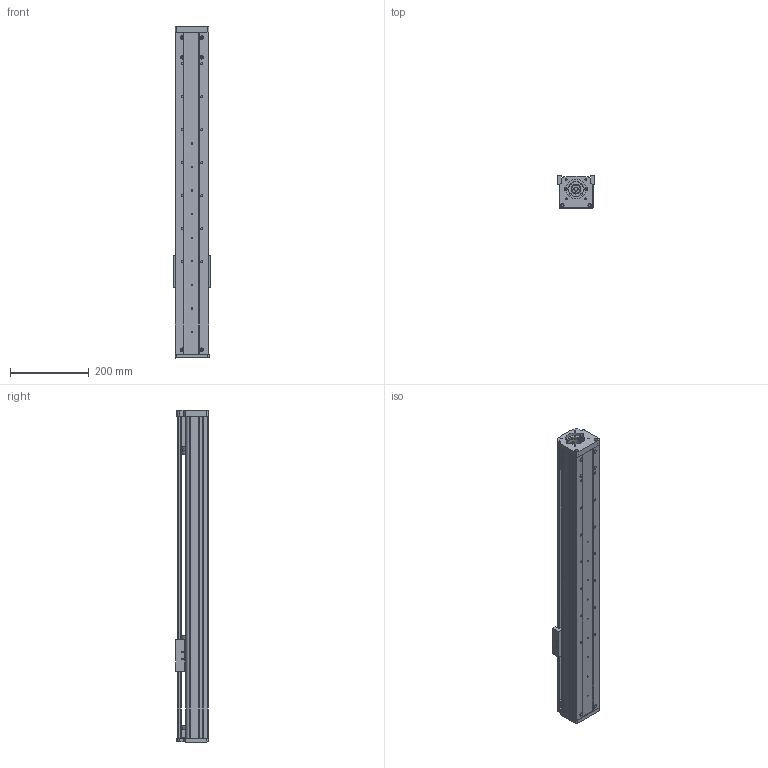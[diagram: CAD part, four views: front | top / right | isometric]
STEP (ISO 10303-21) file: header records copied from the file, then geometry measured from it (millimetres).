
FILE_DESCRIPTION (( 'STEP AP203' ), '1' );
FILE_NAME ('CF86-P600.STEP', '2016-02-22T05:51:19', ( 'Sky123.Org' ), ( 'Sky123.Org' ), 'SwSTEP 2.0', 'SolidWorks 2015', '' );
FILE_SCHEMA (( 'CONFIG_CONTROL_DESIGN' ));
Length unit declared in the file: millimetre
Products named in the file (18): CF86賑輸; SFU1610ĸ; 癹弇羲壽; 滅袉蝶菜; 86-60侜督萇儂釱; 01 86嘐隅釱; 86耜啣; CF86-P600; 02 86盓傅釱; 86-P420裔啣; angular contact ball bearings gb_Rolling bearings S7001 GB 292-94; 86-P420臏倰第; 95粣創裔啣; EGR15-P420絳寢; 坶踡蹟譫M12-1; EGW15CA賑輸; deep groove ball bearings gb_Rolling bearings 6001 GB 276-94; SFU1610-P420幗紩佪裝
Assembly tree (19 placements, depth 2):
  CF86-P600
    86耜啣
    86-P420裔啣
    86-P420臏倰第
    EGR15-P420絳寢
    EGW15CA賑輸
    SFU1610-P420幗紩佪裝
    SFU1610ĸ
    滅袉蝶菜  x2
    01 86嘐隅釱
    02 86盓傅釱
    angular contact ball bearings gb_Rolling bearings S7001 GB 292-94  x2
    95粣創裔啣
    坶踡蹟譫M12-1
    deep groove ball bearings gb_Rolling bearings 6001 GB 276-94
    CF86賑輸
    癹弇羲壽
    86-60侜督萇儂釱
Bounding box: 94 x 82.35 x 845 mm (x, y, z)
Volume: 2199632 mm3; surface area: 776297.9 mm2
Topology: 19 solids, 19 shells, 1280 faces, 4062 edges, 2715 vertices
Faces by surface type: cylinder 666, plane 363, torus 159, sphere 84, bspline 4, cone 4
Entity records: 70116 total; most frequent: CARTESIAN_POINT 37814, ORIENTED_EDGE 6768, DIRECTION 6092, EDGE_CURVE 3384, AXIS2_PLACEMENT_3D 2390, VERTEX_POINT 2258, EDGE_LOOP 1420, VECTOR 1312
